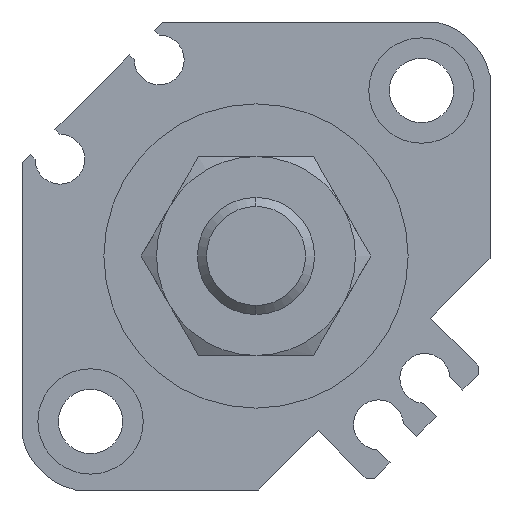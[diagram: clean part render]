
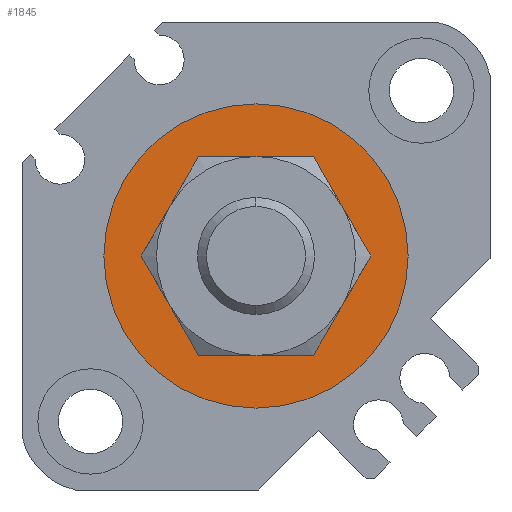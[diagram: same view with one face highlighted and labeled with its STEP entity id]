
A CAD part, left-side view. The second image highlights one B-rep face of the part: STEP entity #1845.
In plain terms, the highlighted planar face has unit normal (-1, 0, 0).
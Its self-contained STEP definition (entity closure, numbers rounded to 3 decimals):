
#157 = EDGE_LOOP ( 'NONE', ( #5327, #1534 ) ) ;
#470 = DIRECTION ( 'NONE',  ( 1., 0., 0. ) ) ;
#619 = CARTESIAN_POINT ( 'NONE',  ( 1.9, 0., 0. ) ) ;
#663 = EDGE_CURVE ( 'NONE', #2640, #1957, #3943, .T. ) ;
#786 = DIRECTION ( 'NONE',  ( 0., 0., -1. ) ) ;
#794 = CIRCLE ( 'NONE', #2646, 7.5 ) ;
#939 = CIRCLE ( 'NONE', #2770, 13. ) ;
#1029 = CARTESIAN_POINT ( 'NONE',  ( 1.9, 0., 0. ) ) ;
#1048 = PLANE ( 'NONE',  #4303 ) ;
#1088 = CIRCLE ( 'NONE', #1789, 7.5 ) ;
#1248 = EDGE_CURVE ( 'NONE', #1957, #2640, #939, .T. ) ;
#1452 = DIRECTION ( 'NONE',  ( 1., 0., 0. ) ) ;
#1483 = DIRECTION ( 'NONE',  ( 1., 0., 0. ) ) ;
#1527 = DIRECTION ( 'NONE',  ( 0., 0., -1. ) ) ;
#1534 = ORIENTED_EDGE ( 'NONE', *, *, #5000, .T. ) ;
#1706 = CARTESIAN_POINT ( 'NONE',  ( 1.9, 0., 0. ) ) ;
#1789 = AXIS2_PLACEMENT_3D ( 'NONE', #1029, #1483, #3824 ) ;
#1845 = ADVANCED_FACE ( 'NONE', ( #2208, #5139 ), #1048, .F. ) ;
#1957 = VERTEX_POINT ( 'NONE', #2309 ) ;
#2208 = FACE_OUTER_BOUND ( 'NONE', #2643, .T. ) ;
#2309 = CARTESIAN_POINT ( 'NONE',  ( 1.9, 0., -13. ) ) ;
#2401 = CARTESIAN_POINT ( 'NONE',  ( 1.9, 0., 0. ) ) ;
#2543 = AXIS2_PLACEMENT_3D ( 'NONE', #4156, #470, #786 ) ;
#2640 = VERTEX_POINT ( 'NONE', #4191 ) ;
#2643 = EDGE_LOOP ( 'NONE', ( #4808, #4422 ) ) ;
#2646 = AXIS2_PLACEMENT_3D ( 'NONE', #2401, #3605, #1527 ) ;
#2770 = AXIS2_PLACEMENT_3D ( 'NONE', #1706, #3373, #5056 ) ;
#2886 = VERTEX_POINT ( 'NONE', #3660 ) ;
#3115 = EDGE_CURVE ( 'NONE', #2886, #4694, #794, .T. ) ;
#3247 = CARTESIAN_POINT ( 'NONE',  ( 1.9, 0., -7.5 ) ) ;
#3373 = DIRECTION ( 'NONE',  ( 1., 0., 0. ) ) ;
#3605 = DIRECTION ( 'NONE',  ( 1., 0., 0. ) ) ;
#3660 = CARTESIAN_POINT ( 'NONE',  ( 1.9, 0., 7.5 ) ) ;
#3824 = DIRECTION ( 'NONE',  ( 0., 0., -1. ) ) ;
#3943 = CIRCLE ( 'NONE', #2543, 13. ) ;
#4156 = CARTESIAN_POINT ( 'NONE',  ( 1.9, 0., 0. ) ) ;
#4191 = CARTESIAN_POINT ( 'NONE',  ( 1.9, 0., 13. ) ) ;
#4284 = DIRECTION ( 'NONE',  ( 0., 1., 0. ) ) ;
#4303 = AXIS2_PLACEMENT_3D ( 'NONE', #619, #1452, #4284 ) ;
#4422 = ORIENTED_EDGE ( 'NONE', *, *, #1248, .F. ) ;
#4694 = VERTEX_POINT ( 'NONE', #3247 ) ;
#4808 = ORIENTED_EDGE ( 'NONE', *, *, #663, .F. ) ;
#5000 = EDGE_CURVE ( 'NONE', #4694, #2886, #1088, .T. ) ;
#5056 = DIRECTION ( 'NONE',  ( 0., 0., -1. ) ) ;
#5139 = FACE_BOUND ( 'NONE', #157, .T. ) ;
#5327 = ORIENTED_EDGE ( 'NONE', *, *, #3115, .T. ) ;
